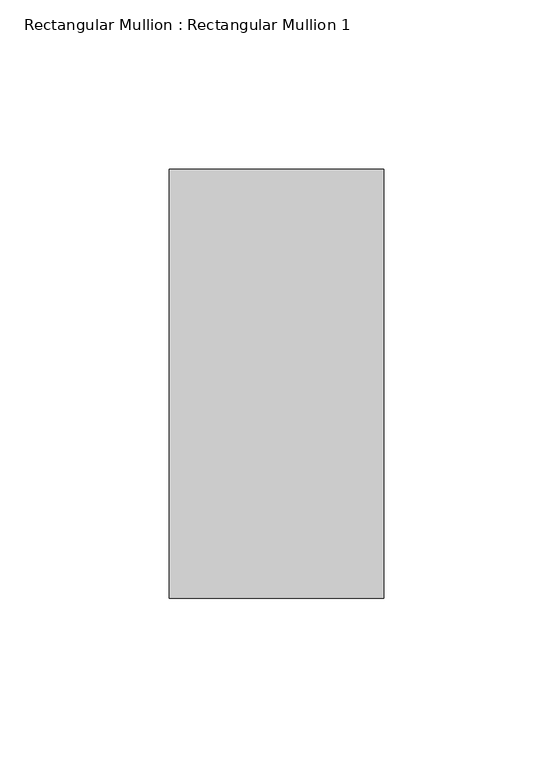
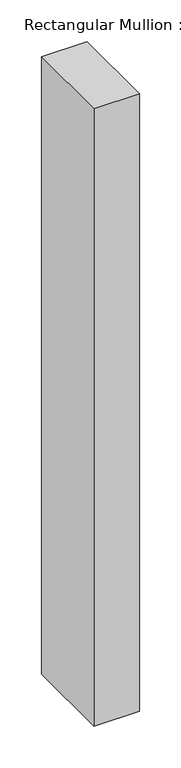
"""IFC4 building model written with IfcOpenShell, lengths in millimetres: member geometry, Rectangular Mullion : Rectangular Mullion 1."""

from ifc_helpers import new_model, si_unit, frame, origin, place, context, project, spatial, polyline, outline, extrude, source, transform, mapped, element, save


def rectangular_mullion_rectangular_mullion_1_67eb2c3b(model_context):
    return source(origin(), model_context, "Body", "SweptSolid", [
        extrude(outline(polyline([(31.75, 63.5), (31.75, -63.5), (-31.75, -63.5), (-31.75, 63.5), (31.75, 63.5)])), frame((0.0, 0.0, -908.05), z_axis=(0.0, 0.0, 1.0), x_axis=(1.0, 0.0, 0.0)), (0.0, 0.0, 1.0), 908.05),
    ])


if __name__ == "__main__":
    model = new_model("IFC4")
    model_context = context("Model", 3, world=origin())
    ifc_project = project(units=[si_unit("LENGTHUNIT", "METRE", prefix="MILLI")], contexts=[model_context])
    site = spatial("IfcSite", under=ifc_project)
    building = spatial("IfcBuilding", under=site)
    placement = place(None, origin())
    rectangular_mullion_rectangular_mullion_1_shape = rectangular_mullion_rectangular_mullion_1_67eb2c3b(model_context)
    element("IfcMember", 1, ObjectType="Rectangular Mullion : Rectangular Mullion 1", at=placement, inside=building, context=model_context, shape_type="MappedRepresentation", body=[
        mapped(rectangular_mullion_rectangular_mullion_1_shape, transform((0.0, 0.0, 0.0), x_axis=(1.0, 0.0, 0.0), y_axis=(0.0, 1.0, 0.0), z_axis=(0.0, 0.0, 1.0))),
    ])
    save(model, "model.ifc")
